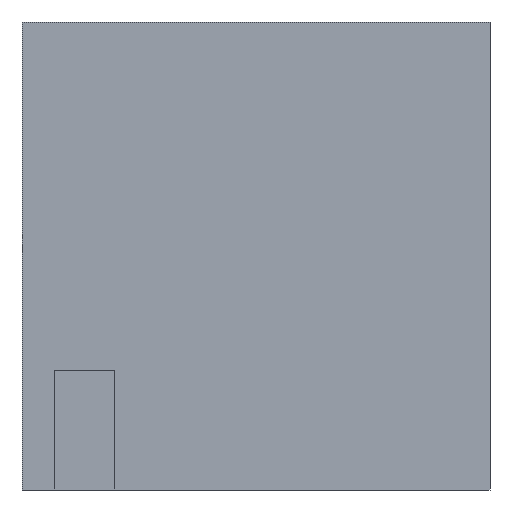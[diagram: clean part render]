
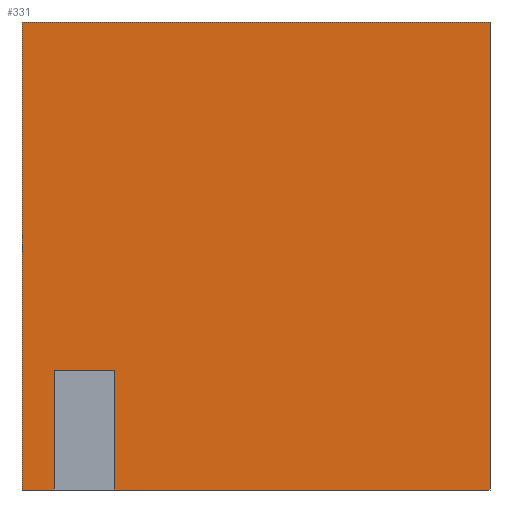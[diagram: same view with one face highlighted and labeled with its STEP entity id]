
A CAD part, front view. The second image highlights one B-rep face of the part: STEP entity #331.
In plain terms, the highlighted planar face has unit normal (0, -1, 0).
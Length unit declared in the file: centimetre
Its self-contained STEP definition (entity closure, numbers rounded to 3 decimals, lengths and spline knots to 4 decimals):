
#8 = VERTEX_POINT ( 'NONE', #656 ) ;
#13 = CARTESIAN_POINT ( 'NONE',  ( 0., 0., 1000. ) ) ;
#20 = LINE ( 'NONE', #391, #598 ) ;
#48 = LINE ( 'NONE', #203, #146 ) ;
#52 = DIRECTION ( 'NONE',  ( 1., 0., 0. ) ) ;
#59 = DIRECTION ( 'NONE',  ( 0., 1., 0. ) ) ;
#67 = ORIENTED_EDGE ( 'NONE', *, *, #475, .F. ) ;
#71 = ORIENTED_EDGE ( 'NONE', *, *, #191, .F. ) ;
#79 = EDGE_LOOP ( 'NONE', ( #382, #568, #71, #506, #307, #229, #67, #285 ) ) ;
#98 = CARTESIAN_POINT ( 'NONE',  ( 1000., 0., 1000. ) ) ;
#110 = LINE ( 'NONE', #440, #400 ) ;
#116 = CARTESIAN_POINT ( 'NONE',  ( 0., 0., 1000. ) ) ;
#122 = LINE ( 'NONE', #638, #366 ) ;
#127 = DIRECTION ( 'NONE',  ( 0., 0., -1. ) ) ;
#136 = CARTESIAN_POINT ( 'NONE',  ( 1000., 0., 1000. ) ) ;
#140 = DIRECTION ( 'NONE',  ( 0., 0., -1. ) ) ;
#145 = EDGE_CURVE ( 'NONE', #252, #554, #368, .T. ) ;
#146 = VECTOR ( 'NONE', #532, 100. ) ;
#153 = CARTESIAN_POINT ( 'NONE',  ( 69.207, 0., 0. ) ) ;
#157 = PLANE ( 'NONE',  #388 ) ;
#188 = VERTEX_POINT ( 'NONE', #98 ) ;
#191 = EDGE_CURVE ( 'NONE', #280, #8, #48, .T. ) ;
#200 = CARTESIAN_POINT ( 'NONE',  ( 0., 0., 0. ) ) ;
#203 = CARTESIAN_POINT ( 'NONE',  ( 69.207, 0., 255.4646 ) ) ;
#205 = VECTOR ( 'NONE', #535, 100. ) ;
#217 = DIRECTION ( 'NONE',  ( 0., 0., -1. ) ) ;
#229 = ORIENTED_EDGE ( 'NONE', *, *, #614, .F. ) ;
#236 = DIRECTION ( 'NONE',  ( 1., 0., 0. ) ) ;
#241 = EDGE_CURVE ( 'NONE', #8, #303, #122, .T. ) ;
#252 = VERTEX_POINT ( 'NONE', #262 ) ;
#262 = CARTESIAN_POINT ( 'NONE',  ( 197.4393, 0., 0. ) ) ;
#280 = VERTEX_POINT ( 'NONE', #530 ) ;
#285 = ORIENTED_EDGE ( 'NONE', *, *, #525, .T. ) ;
#303 = VERTEX_POINT ( 'NONE', #153 ) ;
#307 = ORIENTED_EDGE ( 'NONE', *, *, #145, .T. ) ;
#317 = CARTESIAN_POINT ( 'NONE',  ( 0., 0., 0. ) ) ;
#331 = ADVANCED_FACE ( 'NONE', ( #373 ), #157, .F. ) ;
#366 = VECTOR ( 'NONE', #127, 100. ) ;
#368 = LINE ( 'NONE', #317, #627 ) ;
#373 = FACE_OUTER_BOUND ( 'NONE', #79, .T. ) ;
#382 = ORIENTED_EDGE ( 'NONE', *, *, #639, .T. ) ;
#388 = AXIS2_PLACEMENT_3D ( 'NONE', #13, #59, #570 ) ;
#391 = CARTESIAN_POINT ( 'NONE',  ( 197.4393, 0., 0. ) ) ;
#396 = VERTEX_POINT ( 'NONE', #584 ) ;
#400 = VECTOR ( 'NONE', #217, 100. ) ;
#440 = CARTESIAN_POINT ( 'NONE',  ( 0., 0., 1000. ) ) ;
#466 = VECTOR ( 'NONE', #236, 100. ) ;
#475 = EDGE_CURVE ( 'NONE', #559, #188, #578, .T. ) ;
#506 = ORIENTED_EDGE ( 'NONE', *, *, #544, .F. ) ;
#510 = LINE ( 'NONE', #136, #655 ) ;
#525 = EDGE_CURVE ( 'NONE', #559, #396, #110, .T. ) ;
#526 = CARTESIAN_POINT ( 'NONE',  ( 0., 0., 1000. ) ) ;
#530 = CARTESIAN_POINT ( 'NONE',  ( 197.4393, 0., 255.4646 ) ) ;
#532 = DIRECTION ( 'NONE',  ( -1., 0., 0. ) ) ;
#535 = DIRECTION ( 'NONE',  ( 1., 0., 0. ) ) ;
#544 = EDGE_CURVE ( 'NONE', #252, #280, #20, .T. ) ;
#554 = VERTEX_POINT ( 'NONE', #617 ) ;
#555 = LINE ( 'NONE', #200, #466 ) ;
#559 = VERTEX_POINT ( 'NONE', #526 ) ;
#568 = ORIENTED_EDGE ( 'NONE', *, *, #241, .F. ) ;
#570 = DIRECTION ( 'NONE',  ( 0., 0., 1. ) ) ;
#578 = LINE ( 'NONE', #116, #205 ) ;
#584 = CARTESIAN_POINT ( 'NONE',  ( 0., 0., 0. ) ) ;
#598 = VECTOR ( 'NONE', #620, 100. ) ;
#614 = EDGE_CURVE ( 'NONE', #188, #554, #510, .T. ) ;
#617 = CARTESIAN_POINT ( 'NONE',  ( 1000., 0., 0. ) ) ;
#620 = DIRECTION ( 'NONE',  ( 0., 0., 1. ) ) ;
#627 = VECTOR ( 'NONE', #52, 100. ) ;
#638 = CARTESIAN_POINT ( 'NONE',  ( 69.207, 0., 0. ) ) ;
#639 = EDGE_CURVE ( 'NONE', #396, #303, #555, .T. ) ;
#655 = VECTOR ( 'NONE', #140, 100. ) ;
#656 = CARTESIAN_POINT ( 'NONE',  ( 69.207, 0., 255.4646 ) ) ;
